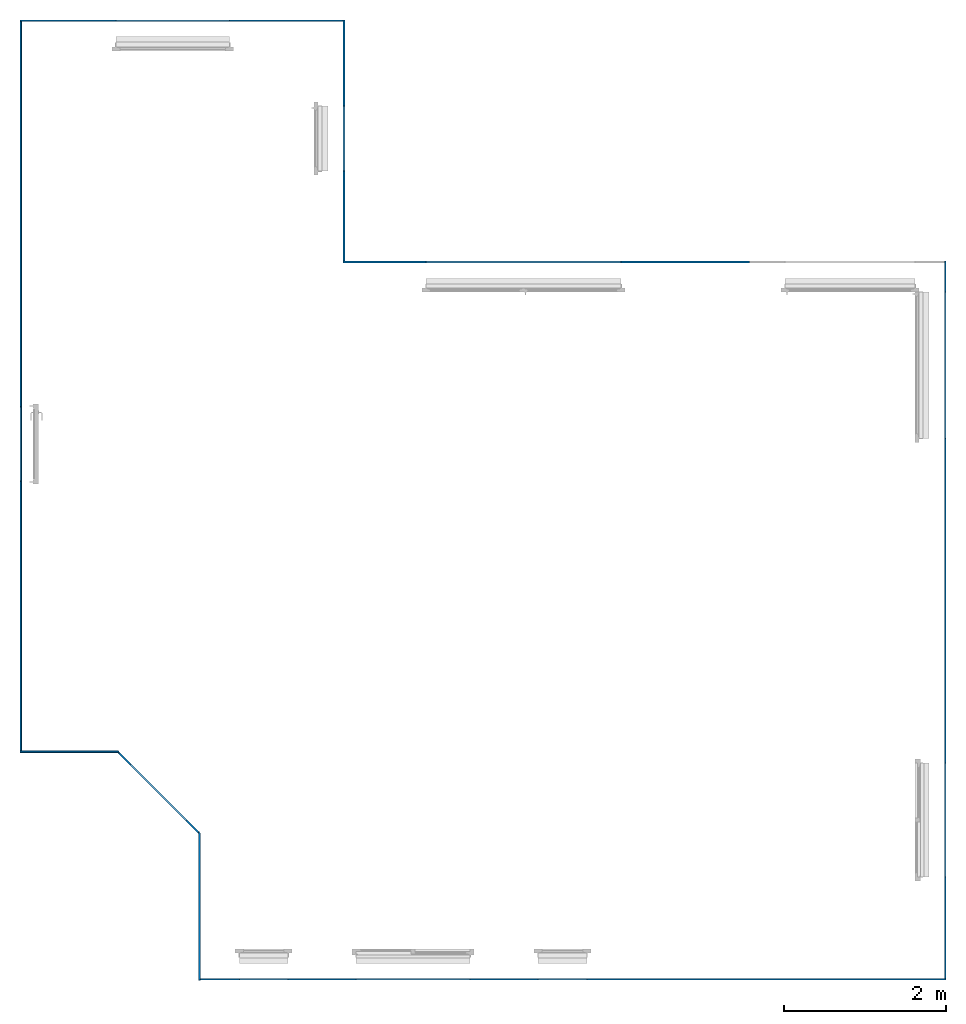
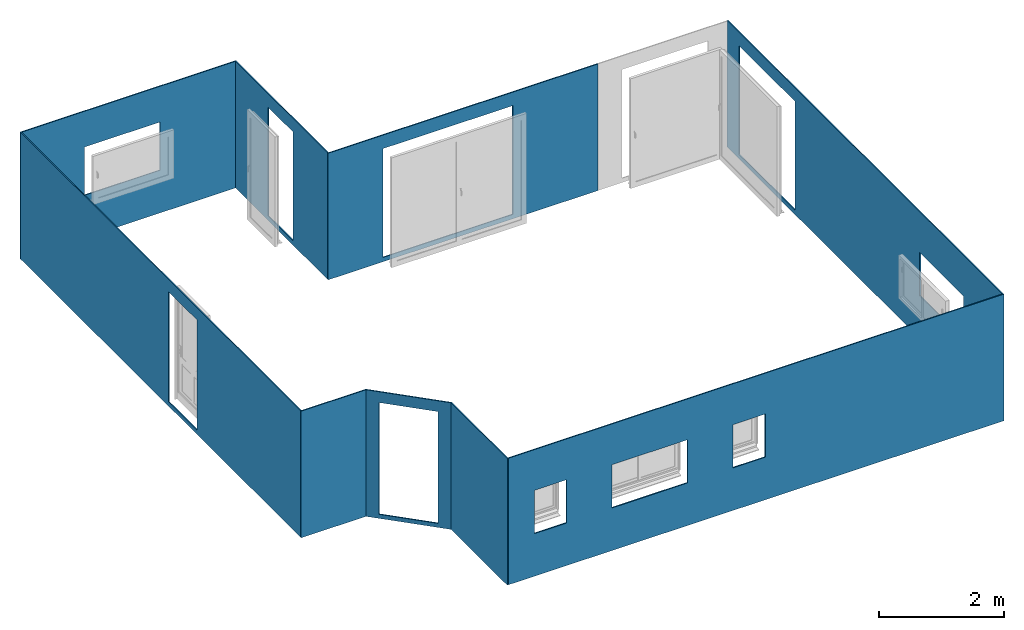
# One storey, part 1 of 6: 9 walls, 13 openings.
"""IFC2X3 building model written with IfcOpenShell, lengths in centimetres."""

from ifc_helpers import new_model, entity, si_unit, converted_unit, derived_unit, direction, frame, frame_2d, origin, place, context, subcontext, project, spatial, polyline, rectangle, outline, extrude, clip, halfspace, faceted_brep, material, layer, layer_set, layer_usage, type_object, element, save


model = new_model("IFC2X3")

# Units and contexts
model_context = context("Model", 3, precision=0.001, world=origin(), true_north=direction((6.12303176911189e-17, 1.0)))
body_context = subcontext(model_context, "Body", "Model", "MODEL_VIEW")
ifc_project = project(units=[si_unit("LENGTHUNIT", "METRE", prefix="CENTI"), si_unit("AREAUNIT", "SQUARE_METRE"), si_unit("VOLUMEUNIT", "CUBIC_METRE"), converted_unit("PLANEANGLEUNIT", "DEGREE", entity("IfcRatioMeasure", 0.0174532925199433), si_unit("PLANEANGLEUNIT", "RADIAN"), dimensions=[0, 0, 0, 0, 0, 0, 0]), si_unit("MASSUNIT", "GRAM", prefix="KILO"), derived_unit("MASSDENSITYUNIT", [(si_unit("MASSUNIT", "GRAM", prefix="KILO"), 1), (si_unit("LENGTHUNIT", "METRE"), -3)]), derived_unit("MOMENTOFINERTIAUNIT", [(si_unit("LENGTHUNIT", "METRE"), 4)]), si_unit("TIMEUNIT", "SECOND"), si_unit("FREQUENCYUNIT", "HERTZ"), si_unit("THERMODYNAMICTEMPERATUREUNIT", "DEGREE_CELSIUS"), derived_unit("THERMALTRANSMITTANCEUNIT", [(si_unit("MASSUNIT", "GRAM", prefix="KILO"), 1), (si_unit("THERMODYNAMICTEMPERATUREUNIT", "KELVIN"), -1), (si_unit("TIMEUNIT", "SECOND"), -3)]), derived_unit("VOLUMETRICFLOWRATEUNIT", [(si_unit("LENGTHUNIT", "METRE"), 3), (si_unit("TIMEUNIT", "SECOND"), -1)]), si_unit("ELECTRICCURRENTUNIT", "AMPERE"), si_unit("ELECTRICVOLTAGEUNIT", "VOLT"), si_unit("POWERUNIT", "WATT"), si_unit("FORCEUNIT", "NEWTON", prefix="KILO"), si_unit("ILLUMINANCEUNIT", "LUX"), si_unit("LUMINOUSFLUXUNIT", "LUMEN"), si_unit("LUMINOUSINTENSITYUNIT", "CANDELA"), derived_unit("USERDEFINED", [(si_unit("MASSUNIT", "GRAM", prefix="KILO"), -1), (si_unit("LENGTHUNIT", "METRE"), -2), (si_unit("TIMEUNIT", "SECOND"), 3), (si_unit("LUMINOUSFLUXUNIT", "LUMEN"), 1)]), derived_unit("LINEARVELOCITYUNIT", [(si_unit("LENGTHUNIT", "METRE"), 1), (si_unit("TIMEUNIT", "SECOND"), -1)]), si_unit("PRESSUREUNIT", "PASCAL"), derived_unit("USERDEFINED", [(si_unit("LENGTHUNIT", "METRE"), -2), (si_unit("MASSUNIT", "GRAM", prefix="KILO"), 1), (si_unit("TIMEUNIT", "SECOND"), -2)]), derived_unit("LINEARFORCEUNIT", [(si_unit("MASSUNIT", "GRAM", prefix="KILO"), 1), (si_unit("LENGTHUNIT", "METRE"), 1), (si_unit("TIMEUNIT", "SECOND"), -2), (si_unit("LENGTHUNIT", "METRE"), -1)]), derived_unit("PLANARFORCEUNIT", [(si_unit("MASSUNIT", "GRAM", prefix="KILO"), 1), (si_unit("LENGTHUNIT", "METRE"), 1), (si_unit("TIMEUNIT", "SECOND"), -2), (si_unit("LENGTHUNIT", "METRE"), -2)])], contexts=[model_context])

# Site, building, storey
site_placement = place(None, origin())
site = spatial("IfcSite", under=ifc_project, at=site_placement, Name="Surface", CompositionType="ELEMENT")
building_placement = place(site_placement, origin())
building = spatial("IfcBuilding", under=site, at=building_placement, CompositionType="ELEMENT")
storey_placement = place(building_placement, origin())
storey = spatial("IfcBuildingStorey", under=building, at=storey_placement, Name="1_Rez-de-chaussée", CompositionType="ELEMENT", Elevation=-7.93413063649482e-11)

# Wall
ifc_material = material(Name="Maçonnerie - Enduit")
ifc_layer = layer(ifc_material, 2.0)
ifc_layer_set = layer_set([ifc_layer], Name="Mur de base:Enduit 2")
ifc_layer_usage_1 = layer_usage(ifc_layer_set, "AXIS2", "POSITIVE", -1.0)
wall_type = type_object("IfcWallType", Name="Mur de base:Enduit 2", PredefinedType="STANDARD", material=ifc_layer_set)
wall_1_placement = place(storey_placement, frame((-1790.17726031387, 119.992317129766, -8.0)))
element("IfcWallStandardCase", 1, at=wall_1_placement, inside=storey, type_object=wall_type, material=ifc_layer_usage_1, Name="Mur de base:Enduit 2", ObjectType="Mur de base:Enduit 2", context=body_context, shape_type="Clipping", body=[
    clip(extrude(outline(polyline([(122.828427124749, -1.0), (120.828427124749, 1.0), (22.0, 1.0), (2.0, 1.0), (0.0, 1.0), (0.0, -1.0), (122.828427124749, -1.0)])), origin(), (0.0, 0.0, 1.0), 248.0), halfspace(frame((0.0, 0.0, -8.0)), True)),
])

# Wall, opening
ifc_layer_usage_2 = layer_usage(ifc_layer_set, "AXIS2", "POSITIVE", -1.0)
wall_2_placement = place(storey_placement, frame((-1671.47015353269, 121.699423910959, -8.0), z_axis=(0.0, 0.0, 1.0), x_axis=(0.707106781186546, -0.707106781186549, 0.0)))
wall_2 = element("IfcWallStandardCase", 2, at=wall_2_placement, inside=storey, type_object=wall_type, material=ifc_layer_usage_2, Name="Mur de base:Enduit 2", ObjectType="Mur de base:Enduit 2", context=body_context, shape_type="Clipping", body=[
    clip(extrude(outline(polyline([(147.078210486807, -1.0), (145.078210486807, 1.0), (2.0, 1.0), (0.0, -1.0), (147.078210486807, -1.0)])), origin(), (0.0, 0.0, 1.0), 248.0), halfspace(frame((0.0, 0.0, -8.0)), True)),
])
opening_1_placement = place(wall_2_placement, origin())
element("IfcOpeningElement", 3, at=opening_1_placement, cuts=wall_2, Name="Mur de base:Enduit 2", ObjectType="Opening", context=body_context, shape_type="SweptSolid", body=[
    extrude(rectangle(XDim=218.809999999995, YDim=97.6200000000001, at=frame_2d((0.0, -1.17239551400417e-13), x_axis=(1.0, 0.0))), frame((73.3226613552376, -151.4, 117.404999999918), z_axis=(0.0, 1.0, 0.0), x_axis=(0.0, 0.0, 1.0)), (0.0, 0.0, 1.0), 304.8),
])

ifc_layer_usage_3 = layer_usage(ifc_layer_set, "AXIS2", "POSITIVE", -1.0)
wall_3_placement = place(storey_placement, frame((-1569.17726031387, 21.8207442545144, -8.0), z_axis=(0.0, 0.0, 1.0), x_axis=(0.0, -1.0, 0.0)))
wall_3 = element("IfcWallStandardCase", 4, at=wall_3_placement, inside=storey, type_object=wall_type, material=ifc_layer_usage_3, Name="Mur de base:Enduit 2", ObjectType="Mur de base:Enduit 2", context=body_context, shape_type="Clipping", body=[
    clip(extrude(outline(polyline([(182.828427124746, -1.0), (182.828427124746, 1.0), (180.828427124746, 1.0), (160.828427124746, 1.0), (2.0, 1.0), (0.0, -1.0), (182.828427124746, -1.0)])), origin(), (0.0, 0.0, 1.0), 248.0), halfspace(frame((0.0, 0.0, -8.0)), True)),
])
opening_2_placement = place(wall_3_placement, origin())
element("IfcOpeningElement", 5, at=opening_2_placement, cuts=wall_3, Name="Mur de base:Enduit 2", ObjectType="Opening", context=body_context, shape_type="SweptSolid", body=[
    extrude(rectangle(XDim=218.809999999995, YDim=97.6200000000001, at=frame_2d((0.0, -1.17239551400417e-13), x_axis=(1.0, 0.0))), frame((-48.7388353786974, -49.7388353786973, 117.404999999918), z_axis=(-0.707106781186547, 0.707106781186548, 0.0), x_axis=(0.0, 0.0, 1.0)), (0.0, 0.0, 1.0), 20.0000000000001),
])

# Wall, openings
ifc_layer_usage_4 = layer_usage(ifc_layer_set, "AXIS2", "POSITIVE", -1.0)
wall_4_placement = place(storey_placement, frame((-1568.17726031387, -160.007682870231, -8.0)))
wall_4 = element("IfcWallStandardCase", 6, at=wall_4_placement, inside=storey, type_object=wall_type, material=ifc_layer_usage_4, Name="Mur de base:Enduit 2", ObjectType="Mur de base:Enduit 2", context=body_context, shape_type="Clipping", body=[
    clip(extrude(rectangle(XDim=918.0, YDim=1.99999999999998, at=frame_2d((459.0, 3.1641356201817e-15), x_axis=(-1.0, 0.0))), origin(), (0.0, 0.0, 1.0), 248.0), halfspace(frame((0.0, 0.0, -8.0)), True)),
])
opening_3_placement = place(wall_4_placement, frame((411.0, -21.0, 81.2447882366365)))
element("IfcOpeningElement", 7, at=opening_3_placement, cuts=wall_4, Name="Mur de base:Enduit 2", ObjectType="Opening", context=body_context, shape_type="Brep", body=[
    faceted_brep([(65.0, 50.0, 6.75521176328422), (65.0, 48.0, 6.75521176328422), (65.0, 48.0, 86.7552117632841), (65.0, 0.0, 86.7552117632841), (65.0, 0.0, 0.0), (65.0, 50.0, 5.25521176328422), (5.0, 100.0, 6.75521176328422), (5.0, 58.0, 6.75521176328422), (5.0, 58.0, 86.7552117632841), (5.0, 100.0, 86.7552117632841), (65.0, 100.0, 6.75521176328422), (65.0, 58.0, 6.75521176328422), (70.0, 58.0, 6.75521176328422), (70.0, 53.0, 6.75521176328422), (66.0, 53.0, 6.75521176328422), (66.0, 48.0, 6.75521176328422), (5.0, 50.0, 6.75521176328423), (5.0, 48.0, 6.75521176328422), (4.0, 48.0, 6.75521176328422), (4.0, 53.0, 6.75521176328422), (0.0, 53.0, 6.75521176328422), (0.0, 58.0, 6.75521176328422), (65.0, 100.0, 86.7552117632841), (5.0, 48.0, 86.7552117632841), (5.0, 0.0, 86.7552117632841), (5.0, 0.0, 0.0), (5.0, 50.0, 5.25521176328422), (70.0, 58.0, 91.7552117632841), (70.0, 53.0, 91.7552117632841), (0.0, 53.0, 91.7552117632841), (4.0, 53.0, 87.7552117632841), (66.0, 53.0, 87.7552117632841), (66.0, 48.0, 87.7552117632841), (4.0, 48.0, 87.7552117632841), (65.0, 58.0, 86.7552117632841), (0.0, 58.0, 91.7552117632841)], [[[0, 1, 2, 3, 4, 5]], [[6, 7, 8, 9]], [[10, 11, 12, 13, 14, 15, 1, 0, 16, 17, 18, 19, 20, 21, 7, 6]], [[10, 6, 9, 22]], [[3, 2, 23, 24]], [[3, 24, 25, 4]], [[4, 25, 26, 5]], [[5, 26, 16, 0]], [[12, 27, 28, 13]], [[13, 28, 29, 20, 19, 30, 31, 14]], [[14, 31, 32, 15]], [[15, 32, 33, 18, 17, 23, 2, 1]], [[11, 34, 8, 7, 21, 35, 27, 12]], [[27, 35, 29, 28]], [[30, 33, 32, 31]], [[29, 35, 21, 20]], [[19, 18, 33, 30]], [[9, 8, 34, 22]], [[24, 23, 17, 16, 26, 25]], [[22, 34, 11, 10]]]),
])
opening_4_placement = place(wall_4_placement, frame((43.0, -21.0, 81.2447882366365)))
element("IfcOpeningElement", 8, at=opening_4_placement, cuts=wall_4, Name="Mur de base:Enduit 2", ObjectType="Opening", context=body_context, shape_type="Brep", body=[
    faceted_brep([(65.0, 50.0, 6.75521176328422), (65.0, 48.0, 6.75521176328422), (65.0, 48.0, 86.7552117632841), (65.0, 0.0, 86.7552117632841), (65.0, 0.0, 0.0), (65.0, 50.0, 5.25521176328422), (5.0, 100.0, 6.75521176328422), (5.0, 58.0, 6.75521176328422), (5.0, 58.0, 86.7552117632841), (5.0, 100.0, 86.7552117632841), (65.0, 100.0, 6.75521176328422), (65.0, 58.0, 6.75521176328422), (70.0, 58.0, 6.75521176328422), (70.0, 53.0, 6.75521176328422), (66.0, 53.0, 6.75521176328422), (66.0, 48.0, 6.75521176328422), (5.0, 50.0, 6.75521176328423), (5.0, 48.0, 6.75521176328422), (4.0, 48.0, 6.75521176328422), (4.0, 53.0, 6.75521176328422), (0.0, 53.0, 6.75521176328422), (0.0, 58.0, 6.75521176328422), (65.0, 100.0, 86.7552117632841), (5.0, 48.0, 86.7552117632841), (5.0, 0.0, 86.7552117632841), (5.0, 0.0, 0.0), (5.0, 50.0, 5.25521176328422), (70.0, 58.0, 91.7552117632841), (70.0, 53.0, 91.7552117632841), (0.0, 53.0, 91.7552117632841), (4.0, 53.0, 87.7552117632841), (66.0, 53.0, 87.7552117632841), (66.0, 48.0, 87.7552117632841), (4.0, 48.0, 87.7552117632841), (65.0, 58.0, 86.7552117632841), (0.0, 58.0, 91.7552117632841)], [[[0, 1, 2, 3, 4, 5]], [[6, 7, 8, 9]], [[10, 11, 12, 13, 14, 15, 1, 0, 16, 17, 18, 19, 20, 21, 7, 6]], [[10, 6, 9, 22]], [[3, 2, 23, 24]], [[3, 24, 25, 4]], [[4, 25, 26, 5]], [[5, 26, 16, 0]], [[12, 27, 28, 13]], [[13, 28, 29, 20, 19, 30, 31, 14]], [[14, 31, 32, 15]], [[15, 32, 33, 18, 17, 23, 2, 1]], [[11, 34, 8, 7, 21, 35, 27, 12]], [[27, 35, 29, 28]], [[30, 33, 32, 31]], [[29, 35, 21, 20]], [[19, 18, 33, 30]], [[9, 8, 34, 22]], [[24, 23, 17, 16, 26, 25]], [[22, 34, 11, 10]]]),
])
opening_5_placement = place(wall_4_placement, frame((187.0, -21.0, 81.2447882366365)))
element("IfcOpeningElement", 9, at=opening_5_placement, cuts=wall_4, Name="Mur de base:Enduit 2", ObjectType="Opening", context=body_context, shape_type="Brep", body=[
    faceted_brep([(145.0, 50.0, 6.75521176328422), (145.0, 48.0, 6.75521176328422), (145.0, 48.0, 86.7552117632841), (145.0, 0.0, 86.7552117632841), (145.0, 0.0, 0.0), (145.0, 50.0, 5.25521176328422), (5.0, 100.0, 6.75521176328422), (5.0, 58.0, 6.75521176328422), (5.0, 58.0, 86.7552117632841), (5.0, 100.0, 86.7552117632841), (145.0, 100.0, 6.75521176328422), (145.0, 58.0, 6.75521176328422), (150.0, 58.0, 6.75521176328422), (150.0, 51.0, 6.75521176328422), (146.0, 51.0, 6.75521176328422), (146.0, 48.0, 6.75521176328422), (5.0, 50.0, 6.75521176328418), (5.0, 48.0, 6.75521176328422), (4.0, 48.0, 6.75521176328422), (4.0, 51.0, 6.75521176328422), (0.0, 51.0, 6.75521176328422), (0.0, 58.0, 6.75521176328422), (145.0, 100.0, 86.7552117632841), (5.0, 48.0, 86.7552117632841), (5.0, 0.0, 86.7552117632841), (5.0, 0.0, 0.0), (5.0, 50.0, 5.25521176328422), (150.0, 58.0, 91.7552117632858), (150.0, 51.0, 91.7552117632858), (0.0, 51.0, 91.7552117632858), (4.0, 51.0, 87.7552117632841), (146.0, 51.0, 87.7552117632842), (146.0, 48.0, 87.7552117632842), (4.0, 48.0, 87.7552117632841), (145.0, 58.0, 86.7552117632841), (0.0, 58.0, 91.7552117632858)], [[[0, 1, 2, 3, 4, 5]], [[6, 7, 8, 9]], [[10, 11, 12, 13, 14, 15, 1, 0, 16, 17, 18, 19, 20, 21, 7, 6]], [[10, 6, 9, 22]], [[3, 2, 23, 24]], [[3, 24, 25, 4]], [[4, 25, 26, 5]], [[5, 26, 16, 0]], [[12, 27, 28, 13]], [[13, 28, 29, 20, 19, 30, 31, 14]], [[14, 31, 32, 15]], [[15, 32, 33, 18, 17, 23, 2, 1]], [[11, 34, 8, 7, 21, 35, 27, 12]], [[27, 35, 29, 28]], [[30, 33, 32, 31]], [[29, 35, 21, 20]], [[19, 18, 33, 30]], [[9, 8, 34, 22]], [[24, 23, 17, 16, 26, 25]], [[22, 34, 11, 10]]]),
])

ifc_layer_usage_5 = layer_usage(ifc_layer_set, "AXIS2", "POSITIVE", -1.0)
wall_5_placement = place(storey_placement, frame((-651.177260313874, -159.007682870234, -8.0), z_axis=(0.0, 0.0, 1.0), x_axis=(0.0, 1.0, 0.0)))
wall_5 = element("IfcWallStandardCase", 10, at=wall_5_placement, inside=storey, type_object=wall_type, material=ifc_layer_usage_5, Name="Mur de base:Enduit 2", ObjectType="Mur de base:Enduit 2", context=body_context, shape_type="Clipping", body=[
    clip(extrude(rectangle(XDim=882.999999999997, YDim=1.99999999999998, at=frame_2d((441.499999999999, 1.55431223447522e-15), x_axis=(-1.0, 0.0))), origin(), (0.0, 0.0, 1.0), 248.0), halfspace(frame((0.0, 0.0, -8.0)), True)),
])
opening_6_placement = place(wall_5_placement, frame((660.0, 79.0, 8.0)))
element("IfcOpeningElement", 11, at=opening_6_placement, cuts=wall_5, Name="Mur de base:Enduit 2", ObjectType="Opening", context=body_context, shape_type="Brep", body=[
    faceted_brep([(185.0, -50.0, 3.50000000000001), (185.0, -52.0, 3.5), (185.0, -52.0, 213.5), (185.0, -100.0, 213.5), (185.0, -100.0, 0.0), (185.0, -83.3002755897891, 0.0), (5.0, 0.0, 3.50000000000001), (5.0, -42.0, 3.50000000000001), (5.0, -42.0, 213.5), (5.0, 0.0, 213.5), (185.0, 0.0, 3.50000000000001), (185.0, -42.0, 3.50000000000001), (190.0, -42.0, 3.50000000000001), (190.0, -47.0, 3.50000000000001), (186.0, -47.0, 3.50000000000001), (186.0, -52.0, 3.50000000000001), (5.0, -50.0, 3.49999999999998), (5.0, -52.0, 3.50000000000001), (4.0, -52.0, 3.50000000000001), (4.0, -47.0, 3.50000000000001), (0.0, -47.0, 3.50000000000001), (0.0, -42.0, 3.50000000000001), (185.0, 0.0, 213.5), (5.0, -52.0, 213.5), (5.0, -100.0, 213.5), (5.0, -100.0, 0.0), (5.0, -83.3002755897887, 0.0), (190.0, -42.0, 218.5), (190.0, -47.0, 218.5), (0.0, -47.0, 218.5), (4.0, -47.0, 214.5), (186.0, -47.0, 214.5), (186.0, -52.0, 214.5), (4.0, -52.0, 214.5), (185.0, -42.0, 213.5), (0.0, -42.0, 218.5)], [[[0, 1, 2, 3, 4, 5]], [[6, 7, 8, 9]], [[10, 11, 12, 13, 14, 15, 1, 0, 16, 17, 18, 19, 20, 21, 7, 6]], [[10, 6, 9, 22]], [[3, 2, 23, 24]], [[3, 24, 25, 4]], [[4, 25, 26, 5]], [[5, 26, 16, 0]], [[12, 27, 28, 13]], [[13, 28, 29, 20, 19, 30, 31, 14]], [[14, 31, 32, 15]], [[15, 32, 33, 18, 17, 23, 2, 1]], [[11, 34, 8, 7, 21, 35, 27, 12]], [[27, 35, 29, 28]], [[30, 33, 32, 31]], [[29, 35, 21, 20]], [[19, 18, 33, 30]], [[9, 8, 34, 22]], [[24, 23, 17, 16, 26, 25]], [[22, 34, 11, 10]]]),
])
opening_7_placement = place(wall_5_placement, frame((120.0, 79.0, 81.2447882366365)))
element("IfcOpeningElement", 12, at=opening_7_placement, cuts=wall_5, Name="Mur de base:Enduit 2", ObjectType="Opening", context=body_context, shape_type="Brep", body=[
    faceted_brep([(145.0, -50.0, 6.75521176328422), (145.0, -52.0, 6.75521176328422), (145.0, -52.0, 86.7552117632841), (145.0, -100.0, 86.7552117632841), (145.0, -100.0, 0.0), (145.0, -50.0, 5.25521176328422), (5.0, 0.0, 6.75521176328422), (5.0, -42.0, 6.75521176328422), (5.0, -42.0, 86.7552117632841), (5.0, 0.0, 86.7552117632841), (145.0, 0.0, 6.75521176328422), (145.0, -42.0, 6.75521176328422), (150.0, -42.0, 6.75521176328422), (150.0, -49.0, 6.75521176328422), (146.0, -49.0, 6.75521176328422), (146.0, -52.0, 6.75521176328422), (5.0, -50.0, 6.75521176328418), (5.0, -52.0, 6.75521176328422), (4.0, -52.0, 6.75521176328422), (4.0, -49.0, 6.75521176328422), (0.0, -49.0, 6.75521176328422), (0.0, -42.0, 6.75521176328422), (145.0, 0.0, 86.7552117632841), (5.0, -52.0, 86.7552117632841), (5.0, -100.0, 86.7552117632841), (5.0, -100.0, 0.0), (5.0, -50.0, 5.25521176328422), (150.0, -42.0, 91.7552117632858), (150.0, -49.0, 91.7552117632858), (0.0, -49.0, 91.7552117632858), (4.0, -49.0, 87.7552117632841), (146.0, -49.0, 87.7552117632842), (146.0, -52.0, 87.7552117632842), (4.0, -52.0, 87.7552117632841), (145.0, -42.0, 86.7552117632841), (0.0, -42.0, 91.7552117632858)], [[[0, 1, 2, 3, 4, 5]], [[6, 7, 8, 9]], [[10, 11, 12, 13, 14, 15, 1, 0, 16, 17, 18, 19, 20, 21, 7, 6]], [[10, 6, 9, 22]], [[3, 2, 23, 24]], [[3, 24, 25, 4]], [[4, 25, 26, 5]], [[5, 26, 16, 0]], [[12, 27, 28, 13]], [[13, 28, 29, 20, 19, 30, 31, 14]], [[14, 31, 32, 15]], [[15, 32, 33, 18, 17, 23, 2, 1]], [[11, 34, 8, 7, 21, 35, 27, 12]], [[27, 35, 29, 28]], [[30, 33, 32, 31]], [[29, 35, 21, 20]], [[19, 18, 33, 30]], [[9, 8, 34, 22]], [[24, 23, 17, 16, 26, 25]], [[22, 34, 11, 10]]]),
])

# Wall, opening
ifc_layer_usage_6 = layer_usage(ifc_layer_set, "AXIS2", "POSITIVE", -1.0)
wall_6_placement = place(storey_placement, frame((-1391.17726031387, 723.992317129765, -8.0), z_axis=(0.0, 0.0, 1.0), x_axis=(0.0, 1.0, 0.0)))
wall_6 = element("IfcWallStandardCase", 13, at=wall_6_placement, inside=storey, type_object=wall_type, material=ifc_layer_usage_6, Name="Mur de base:Enduit 2", ObjectType="Mur de base:Enduit 2", context=body_context, shape_type="Clipping", body=[
    clip(extrude(rectangle(XDim=297.0, YDim=1.99999999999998, at=frame_2d((148.5, 1.49880108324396e-15), x_axis=(-1.0, 0.0))), origin(), (0.0, 0.0, 1.0), 248.0), halfspace(frame((0.0, 0.0, -8.0)), True)),
])
opening_8_placement = place(wall_6_placement, frame((106.0, 79.0, 8.0)))
element("IfcOpeningElement", 14, at=opening_8_placement, cuts=wall_6, Name="Mur de base:Enduit 2", ObjectType="Opening", context=body_context, shape_type="Brep", body=[
    faceted_brep([(85.0, -50.0, 3.50000000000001), (85.0, -52.0, 3.5), (85.0, -52.0, 213.5), (85.0, -100.0, 213.5), (85.0, -100.0, 0.0), (85.0, -83.3002755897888, 0.0), (5.0, 0.0, 3.50000000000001), (5.0, -42.0, 3.50000000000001), (5.0, -42.0, 213.5), (5.0, 0.0, 213.5), (85.0, 0.0, 3.50000000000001), (85.0, -42.0, 3.50000000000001), (90.0, -42.0, 3.50000000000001), (90.0, -47.0, 3.50000000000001), (86.0, -47.0, 3.50000000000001), (86.0, -52.0, 3.50000000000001), (5.0, -50.0, 3.49999999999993), (5.0, -52.0, 3.50000000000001), (4.0, -52.0, 3.50000000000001), (4.0, -47.0, 3.50000000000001), (0.0, -47.0, 3.50000000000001), (0.0, -42.0, 3.50000000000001), (85.0, 0.0, 213.5), (5.0, -52.0, 213.5), (5.0, -100.0, 213.5), (5.0, -100.0, 0.0), (5.0, -83.3002755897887, 0.0), (90.0, -42.0, 218.5), (90.0, -47.0, 218.5), (0.0, -47.0, 218.5), (4.0, -47.0, 214.5), (86.0, -47.0, 214.5), (86.0, -52.0, 214.5), (4.0, -52.0, 214.5), (85.0, -42.0, 213.5), (0.0, -42.0, 218.5)], [[[0, 1, 2, 3, 4, 5]], [[6, 7, 8, 9]], [[10, 11, 12, 13, 14, 15, 1, 0, 16, 17, 18, 19, 20, 21, 7, 6]], [[10, 6, 9, 22]], [[3, 2, 23, 24]], [[3, 24, 25, 4]], [[4, 25, 26, 5]], [[5, 26, 16, 0]], [[12, 27, 28, 13]], [[13, 28, 29, 20, 19, 30, 31, 14]], [[14, 31, 32, 15]], [[15, 32, 33, 18, 17, 23, 2, 1]], [[11, 34, 8, 7, 21, 35, 27, 12]], [[27, 35, 29, 28]], [[30, 33, 32, 31]], [[29, 35, 21, 20]], [[19, 18, 33, 30]], [[9, 8, 34, 22]], [[24, 23, 17, 16, 26, 25]], [[22, 34, 11, 10]]]),
])

ifc_layer_usage_7 = layer_usage(ifc_layer_set, "AXIS2", "POSITIVE", -1.0)
wall_7_placement = place(storey_placement, frame((-1392.17726031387, 1019.99231712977, -8.0), z_axis=(0.0, 0.0, 1.0), x_axis=(-1.0, 0.0, 0.0)))
wall_7 = element("IfcWallStandardCase", 15, at=wall_7_placement, inside=storey, type_object=wall_type, material=ifc_layer_usage_7, Name="Mur de base:Enduit 2", ObjectType="Mur de base:Enduit 2", context=body_context, shape_type="Clipping", body=[
    clip(extrude(rectangle(XDim=398.0, YDim=1.99999999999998, at=frame_2d((199.0, 3.27515792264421e-15), x_axis=(-1.0, 0.0))), origin(), (0.0, 0.0, 1.0), 248.0), halfspace(frame((0.0, 0.0, -8.0)), True)),
])
opening_9_placement = place(wall_7_placement, frame((285.0, 79.0, 81.2447882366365)))
element("IfcOpeningElement", 16, at=opening_9_placement, cuts=wall_7, Name="Mur de base:Enduit 2", ObjectType="Opening", context=body_context, shape_type="Brep", body=[
    faceted_brep([(-5.0, -50.0, 6.75521176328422), (-5.0, -52.0, 6.75521176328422), (-5.0, -52.0, 96.7552117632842), (-5.0, -100.0, 96.7552117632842), (-5.0, -100.0, 0.0), (-5.0, -50.0, 5.25521176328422), (-145.0, 0.0, 6.75521176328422), (-145.0, -42.0, 6.75521176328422), (-145.0, -42.0, 96.7552117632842), (-145.0, 0.0, 96.7552117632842), (-5.0, 0.0, 6.75521176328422), (-5.0, -42.0, 6.75521176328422), (0.0, -42.0, 6.75521176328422), (0.0, -47.0, 6.75521176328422), (-4.0, -47.0, 6.75521176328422), (-4.0, -52.0, 6.75521176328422), (-145.0, -50.0, 6.75521176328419), (-145.0, -52.0, 6.75521176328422), (-146.0, -52.0, 6.75521176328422), (-146.0, -47.0, 6.75521176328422), (-150.0, -47.0, 6.75521176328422), (-150.0, -42.0, 6.75521176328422), (-5.0, 0.0, 96.7552117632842), (-145.0, -52.0, 96.7552117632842), (-145.0, -100.0, 96.7552117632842), (-145.0, -100.0, 0.0), (-145.0, -50.0, 5.25521176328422), (0.0, -42.0, 101.755211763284), (0.0, -47.0, 101.755211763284), (-150.0, -47.0, 101.755211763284), (-146.0, -47.0, 97.7552117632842), (-4.0, -47.0, 97.7552117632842), (-4.0, -52.0, 97.7552117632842), (-146.0, -52.0, 97.7552117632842), (-5.0, -42.0, 96.7552117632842), (-150.0, -42.0, 101.755211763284)], [[[0, 1, 2, 3, 4, 5]], [[6, 7, 8, 9]], [[10, 11, 12, 13, 14, 15, 1, 0, 16, 17, 18, 19, 20, 21, 7, 6]], [[10, 6, 9, 22]], [[3, 2, 23, 24]], [[3, 24, 25, 4]], [[4, 25, 26, 5]], [[5, 26, 16, 0]], [[12, 27, 28, 13]], [[13, 28, 29, 20, 19, 30, 31, 14]], [[14, 31, 32, 15]], [[15, 32, 33, 18, 17, 23, 2, 1]], [[11, 34, 8, 7, 21, 35, 27, 12]], [[27, 35, 29, 28]], [[30, 33, 32, 31]], [[29, 35, 21, 20]], [[19, 18, 33, 30]], [[9, 8, 34, 22]], [[24, 23, 17, 16, 26, 25]], [[22, 34, 11, 10]]]),
])

ifc_layer_usage_8 = layer_usage(ifc_layer_set, "AXIS2", "POSITIVE", -1.0)
wall_8_placement = place(storey_placement, frame((-1789.17726031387, 1018.99231712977, -8.0), z_axis=(0.0, 0.0, 1.0), x_axis=(0.0, -1.0, 0.0)))
wall_8 = element("IfcWallStandardCase", 17, at=wall_8_placement, inside=storey, type_object=wall_type, material=ifc_layer_usage_8, Name="Mur de base:Enduit 2", ObjectType="Mur de base:Enduit 2", context=body_context, shape_type="Clipping", body=[
    clip(extrude(rectangle(XDim=898.0, YDim=1.99999999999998, at=frame_2d((449.0, -1.72084568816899e-15), x_axis=(-1.0, 0.0))), origin(), (0.0, 0.0, 1.0), 248.0), halfspace(frame((0.0, 0.0, -8.0)), True)),
])
opening_10_placement = place(wall_8_placement, frame((569.0, -29.0, 8.0)))
element("IfcOpeningElement", 18, at=opening_10_placement, cuts=wall_8, Name="Mur de base:Enduit 2", ObjectType="Opening", context=body_context, shape_type="Brep", body=[
    faceted_brep([(-3.0, 80.0, 216.0), (-95.0, 80.0, 216.0), (-95.0, 50.0, 216.0), (-3.0, 50.0, 216.0), (-3.0, 0.0, 0.0), (-95.0, 0.0, 0.0), (-95.0, 40.0, 0.0), (-96.4999999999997, 40.0, 0.0), (-96.4999999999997, 44.3000000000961, 0.0), (-98.0, 44.3000000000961, 0.0), (-98.0, 50.0, 0.0), (-95.0, 50.0, 0.0), (-95.0, 80.0, 0.0), (-3.0, 80.0, 0.0), (-3.0, 50.0, 0.0), (0.0, 50.0, 0.0), (0.0, 44.3000000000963, 0.0), (-1.50000000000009, 44.3000000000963, 0.0), (-1.50000000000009, 40.0, 0.0), (-3.0, 40.0, 0.0), (-3.0, 0.0, 216.0), (-95.0, 0.0, 216.0), (-95.0, 40.0, 216.0), (0.0, 44.3000000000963, 219.0), (-98.0, 44.3000000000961, 219.0), (-96.4999999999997, 44.3000000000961, 217.499999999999), (-1.50000000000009, 44.3000000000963, 217.499999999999), (-98.0, 50.0, 219.0), (0.0, 50.0, 219.0), (-96.4999999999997, 40.0, 217.499999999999), (-3.0, 40.0, 216.0), (-1.50000000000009, 40.0, 217.499999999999)], [[[0, 1, 2, 3]], [[4, 5, 6, 7, 8, 9, 10, 11, 12, 13, 14, 15, 16, 17, 18, 19]], [[13, 0, 3, 14]], [[20, 21, 5, 4]], [[5, 21, 22, 6]], [[1, 0, 13, 12]], [[16, 23, 24, 9, 8, 25, 26, 17]], [[11, 10, 27, 28, 15, 14, 3, 2]], [[10, 9, 24, 27]], [[24, 23, 28, 27]], [[23, 16, 15, 28]], [[8, 7, 29, 25]], [[7, 6, 22, 30, 19, 18, 31, 29]], [[25, 29, 31, 26]], [[31, 18, 17, 26]], [[1, 12, 11, 2]], [[20, 4, 19, 30]], [[21, 20, 30, 22]]]),
])

# Wall, openings
ifc_layer_usage_9 = layer_usage(ifc_layer_set, "AXIS2", "POSITIVE", -1.0)
wall_9_placement = place(storey_placement, frame((-882.177260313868, 722.992317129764, -8.0), z_axis=(0.0, 0.0, 1.0), x_axis=(-1.0, 0.0, 0.0)))
wall_9 = element("IfcWallStandardCase", 19, at=wall_9_placement, inside=storey, type_object=wall_type, material=ifc_layer_usage_9, Name="Mur de base:Enduit 2", ObjectType="Mur de base:Enduit 2", context=body_context, shape_type="Clipping", body=[
    clip(extrude(rectangle(XDim=500.000000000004, YDim=1.99999999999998, at=frame_2d((260.000000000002, 2.48134846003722e-14), x_axis=(-1.0, 0.0))), origin(), (0.0, 0.0, 1.0), 248.0), halfspace(frame((0.0, 0.0, -8.0)), True)),
])
opening_11_placement = place(wall_9_placement, frame((413.0, 79.0, 8.0)))
element("IfcOpeningElement", 20, at=opening_11_placement, cuts=wall_9, Name="Mur de base:Enduit 2", ObjectType="Opening", context=body_context, shape_type="Brep", body=[
    faceted_brep([(-5.0, -50.0, 3.50000000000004), (-5.0, -52.0, 3.50000000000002), (-5.0, -52.0, 213.5), (-5.0, -100.0, 213.5), (-5.0, -100.0, 0.0), (-5.0, -83.3002755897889, 0.0), (-245.0, 0.0, 3.50000000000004), (-245.0, -42.0, 3.50000000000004), (-245.0, -42.0, 213.5), (-245.0, 0.0, 213.5), (-5.0, 0.0, 3.50000000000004), (-5.0, -42.0, 3.50000000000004), (0.0, -42.0, 3.50000000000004), (0.0, -47.0, 3.50000000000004), (-4.0, -47.0, 3.50000000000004), (-4.0, -52.0, 3.50000000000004), (-245.0, -50.0, 3.50000000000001), (-245.0, -52.0, 3.50000000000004), (-246.0, -52.0, 3.50000000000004), (-246.0, -47.0, 3.50000000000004), (-250.0, -47.0, 3.50000000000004), (-250.0, -42.0, 3.50000000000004), (-5.0, 0.0, 213.5), (-245.0, -52.0, 213.5), (-245.0, -100.0, 213.5), (-245.0, -100.0, 0.0), (-245.0, -83.3002755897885, 0.0), (0.0, -42.0, 218.5), (0.0, -47.0, 218.5), (-250.0, -47.0, 218.5), (-246.0, -47.0, 214.5), (-4.0, -47.0, 214.5), (-4.0, -52.0, 214.5), (-246.0, -52.0, 214.5), (-5.0, -42.0, 213.5), (-250.0, -42.0, 218.5)], [[[0, 1, 2, 3, 4, 5]], [[6, 7, 8, 9]], [[10, 11, 12, 13, 14, 15, 1, 0, 16, 17, 18, 19, 20, 21, 7, 6]], [[10, 6, 9, 22]], [[3, 2, 23, 24]], [[3, 24, 25, 4]], [[4, 25, 26, 5]], [[5, 26, 16, 0]], [[12, 27, 28, 13]], [[13, 28, 29, 20, 19, 30, 31, 14]], [[14, 31, 32, 15]], [[15, 32, 33, 18, 17, 23, 2, 1]], [[11, 34, 8, 7, 21, 35, 27, 12]], [[27, 35, 29, 28]], [[30, 33, 32, 31]], [[29, 35, 21, 20]], [[19, 18, 33, 30]], [[9, 8, 34, 22]], [[24, 23, 17, 16, 26, 25]], [[22, 34, 11, 10]]]),
])
opening_12_placement = place(wall_9_placement, frame((-29.0, 79.0, 8.0)))
element("IfcOpeningElement", 21, at=opening_12_placement, cuts=wall_9, Name="Mur de base:Enduit 2", ObjectType="Opening", context=body_context, shape_type="Brep", body=[
    faceted_brep([(-5.0, -50.0, 3.50000000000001), (-5.0, -52.0, 3.5), (-5.0, -52.0, 213.5), (-5.0, -100.0, 213.5), (-5.0, -100.0, 0.0), (-5.0, -83.3002755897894, 0.0), (-165.0, 0.0, 3.50000000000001), (-165.0, -42.0, 3.50000000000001), (-165.0, -42.0, 213.5), (-165.0, 0.0, 213.5), (-5.0, 0.0, 3.50000000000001), (-5.0, -42.0, 3.50000000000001), (0.0, -42.0, 3.50000000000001), (0.0, -47.0, 3.50000000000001), (-4.0, -47.0, 3.50000000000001), (-4.0, -52.0, 3.50000000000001), (-165.0, -50.0, 3.49999999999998), (-165.0, -52.0, 3.50000000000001), (-166.0, -52.0, 3.50000000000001), (-166.0, -47.0, 3.50000000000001), (-170.0, -47.0, 3.50000000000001), (-170.0, -42.0, 3.50000000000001), (-5.0, 0.0, 213.5), (-165.0, -52.0, 213.5), (-165.0, -100.0, 213.5), (-165.0, -100.0, 0.0), (-165.0, -83.3002755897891, 0.0), (0.0, -42.0, 218.5), (0.0, -47.0, 218.5), (-170.0, -47.0, 218.5), (-166.0, -47.0, 214.5), (-4.0, -47.0, 214.5), (-4.0, -52.0, 214.5), (-166.0, -52.0, 214.5), (-5.0, -42.0, 213.5), (-170.0, -42.0, 218.5)], [[[0, 1, 2, 3, 4, 5]], [[6, 7, 8, 9]], [[10, 11, 12, 13, 14, 15, 1, 0, 16, 17, 18, 19, 20, 21, 7, 6]], [[10, 6, 9, 22]], [[3, 2, 23, 24]], [[3, 24, 25, 4]], [[4, 25, 26, 5]], [[5, 26, 16, 0]], [[12, 27, 28, 13]], [[13, 28, 29, 20, 19, 30, 31, 14]], [[14, 31, 32, 15]], [[15, 32, 33, 18, 17, 23, 2, 1]], [[11, 34, 8, 7, 21, 35, 27, 12]], [[27, 35, 29, 28]], [[30, 33, 32, 31]], [[29, 35, 21, 20]], [[19, 18, 33, 30]], [[9, 8, 34, 22]], [[24, 23, 17, 16, 26, 25]], [[22, 34, 11, 10]]]),
])
opening_13_placement = place(wall_9_placement, frame((-152.0, 222.0, 8.0)))
element("IfcOpeningElement", 22, at=opening_13_placement, cuts=wall_9, Name="Mur de base:Enduit 2", ObjectType="Opening", context=body_context, shape_type="Brep", body=[
    faceted_brep([(-50.0, -185.0, 3.50000000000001), (-52.0, -185.0, 3.5), (-52.0, -185.0, 213.5), (-100.0, -185.0, 213.5), (-100.0, -185.0, 0.0), (-83.3002755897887, -185.0, 0.0), (0.0, -5.0, 3.50000000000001), (-42.0, -5.0, 3.50000000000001), (-42.0, -5.0, 213.5), (0.0, -5.0, 213.5), (0.0, -185.0, 3.50000000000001), (-42.0, -185.0, 3.50000000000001), (-42.0, -190.0, 3.50000000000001), (-47.0, -190.0, 3.50000000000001), (-47.0, -186.0, 3.50000000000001), (-52.0, -186.0, 3.50000000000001), (-50.0, -5.0, 3.49999999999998), (-52.0, -5.0, 3.50000000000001), (-52.0, -4.0, 3.50000000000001), (-47.0, -4.0, 3.50000000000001), (-47.0, 0.0, 3.50000000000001), (-42.0, 0.0, 3.50000000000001), (0.0, -185.0, 213.5), (-52.0, -5.0, 213.5), (-100.0, -5.0, 213.5), (-100.0, -5.0, 0.0), (-83.3002755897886, -5.0, 0.0), (-42.0, -190.0, 218.5), (-47.0, -190.0, 218.5), (-47.0, 0.0, 218.5), (-47.0, -4.0, 214.5), (-47.0, -186.0, 214.5), (-52.0, -186.0, 214.5), (-52.0, -4.0, 214.5), (-42.0, -185.0, 213.5), (-42.0, 0.0, 218.5)], [[[0, 1, 2, 3, 4, 5]], [[6, 7, 8, 9]], [[10, 11, 12, 13, 14, 15, 1, 0, 16, 17, 18, 19, 20, 21, 7, 6]], [[10, 6, 9, 22]], [[3, 2, 23, 24]], [[3, 24, 25, 4]], [[4, 25, 26, 5]], [[5, 26, 16, 0]], [[12, 27, 28, 13]], [[13, 28, 29, 20, 19, 30, 31, 14]], [[14, 31, 32, 15]], [[15, 32, 33, 18, 17, 23, 2, 1]], [[11, 34, 8, 7, 21, 35, 27, 12]], [[27, 35, 29, 28]], [[30, 33, 32, 31]], [[29, 35, 21, 20]], [[19, 18, 33, 30]], [[9, 8, 34, 22]], [[24, 23, 17, 16, 26, 25]], [[22, 34, 11, 10]]]),
])

save(model, "model.ifc")
